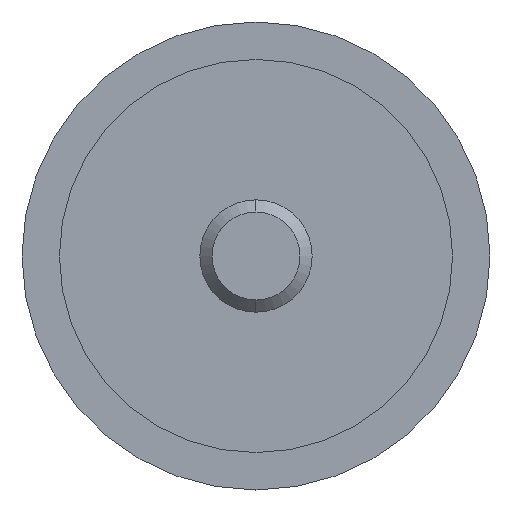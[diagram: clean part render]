
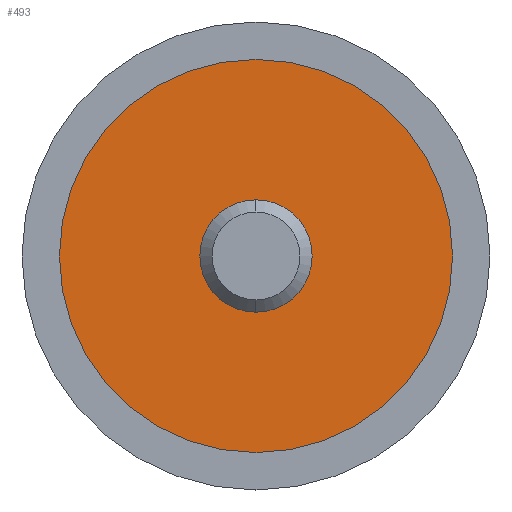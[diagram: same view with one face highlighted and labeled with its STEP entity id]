
A CAD part, left-side view. The second image highlights one B-rep face of the part: STEP entity #493.
In plain terms, the highlighted planar face has unit normal (-1, 0, 0).
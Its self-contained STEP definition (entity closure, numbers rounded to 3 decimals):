
#23 = EDGE_CURVE ( 'NONE', #136, #340, #324, .T. ) ;
#24 = ORIENTED_EDGE ( 'NONE', *, *, #566, .T. ) ;
#34 = VERTEX_POINT ( 'NONE', #462 ) ;
#37 = ORIENTED_EDGE ( 'NONE', *, *, #23, .T. ) ;
#47 = DIRECTION ( 'NONE',  ( -1., 0., 0. ) ) ;
#51 = DIRECTION ( 'NONE',  ( 0., 0., -1. ) ) ;
#66 = VERTEX_POINT ( 'NONE', #364 ) ;
#110 = DIRECTION ( 'NONE',  ( 0., 0., 1. ) ) ;
#114 = EDGE_LOOP ( 'NONE', ( #37, #24 ) ) ;
#136 = VERTEX_POINT ( 'NONE', #216 ) ;
#142 = CARTESIAN_POINT ( 'NONE',  ( -9.99, 0., 0. ) ) ;
#185 = CIRCLE ( 'NONE', #207, 10.5 ) ;
#188 = CARTESIAN_POINT ( 'NONE',  ( -9.99, 0., -10.5 ) ) ;
#207 = AXIS2_PLACEMENT_3D ( 'NONE', #365, #569, #110 ) ;
#214 = AXIS2_PLACEMENT_3D ( 'NONE', #142, #418, #310 ) ;
#216 = CARTESIAN_POINT ( 'NONE',  ( -9.99, 0., 10.5 ) ) ;
#222 = AXIS2_PLACEMENT_3D ( 'NONE', #361, #623, #467 ) ;
#255 = FACE_BOUND ( 'NONE', #670, .T. ) ;
#263 = CARTESIAN_POINT ( 'NONE',  ( -9.99, 10.5, 0. ) ) ;
#302 = AXIS2_PLACEMENT_3D ( 'NONE', #506, #47, #317 ) ;
#310 = DIRECTION ( 'NONE',  ( 0., 0., 1. ) ) ;
#317 = DIRECTION ( 'NONE',  ( 0., 0., -1. ) ) ;
#324 = CIRCLE ( 'NONE', #214, 10.5 ) ;
#340 = VERTEX_POINT ( 'NONE', #188 ) ;
#361 = CARTESIAN_POINT ( 'NONE',  ( -9.99, 0., 0. ) ) ;
#364 = CARTESIAN_POINT ( 'NONE',  ( -9.99, 0., -3. ) ) ;
#365 = CARTESIAN_POINT ( 'NONE',  ( -9.99, 0., 0. ) ) ;
#391 = CIRCLE ( 'NONE', #222, 3. ) ;
#418 = DIRECTION ( 'NONE',  ( -1., 0., 0. ) ) ;
#461 = AXIS2_PLACEMENT_3D ( 'NONE', #263, #668, #51 ) ;
#462 = CARTESIAN_POINT ( 'NONE',  ( -9.99, 0., 3. ) ) ;
#467 = DIRECTION ( 'NONE',  ( 0., 0., -1. ) ) ;
#469 = PLANE ( 'NONE',  #461 ) ;
#488 = EDGE_CURVE ( 'NONE', #66, #34, #671, .T. ) ;
#493 = ADVANCED_FACE ( 'NONE', ( #519, #255 ), #469, .F. ) ;
#506 = CARTESIAN_POINT ( 'NONE',  ( -9.99, 0., 0. ) ) ;
#519 = FACE_OUTER_BOUND ( 'NONE', #114, .T. ) ;
#520 = EDGE_CURVE ( 'NONE', #34, #66, #391, .T. ) ;
#566 = EDGE_CURVE ( 'NONE', #340, #136, #185, .T. ) ;
#569 = DIRECTION ( 'NONE',  ( -1., 0., 0. ) ) ;
#595 = ORIENTED_EDGE ( 'NONE', *, *, #488, .F. ) ;
#623 = DIRECTION ( 'NONE',  ( -1., 0., 0. ) ) ;
#640 = ORIENTED_EDGE ( 'NONE', *, *, #520, .F. ) ;
#668 = DIRECTION ( 'NONE',  ( 1., 0., 0. ) ) ;
#670 = EDGE_LOOP ( 'NONE', ( #640, #595 ) ) ;
#671 = CIRCLE ( 'NONE', #302, 3. ) ;
